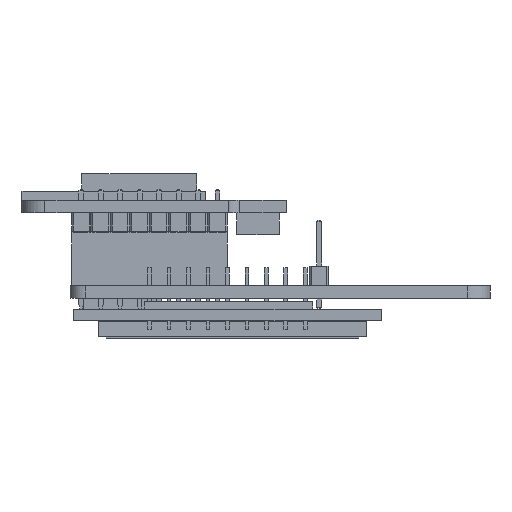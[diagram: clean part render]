
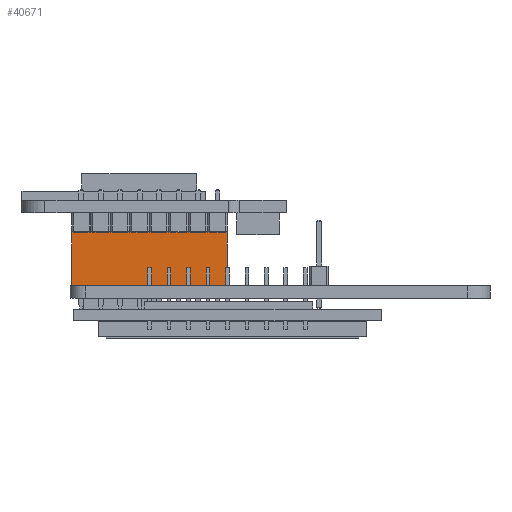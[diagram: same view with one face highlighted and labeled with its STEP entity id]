
A CAD part, left-side view. The second image highlights one B-rep face of the part: STEP entity #40671.
In plain terms, the highlighted free-form (B-spline) face has degree [1, 1] with [2, 2] control points.
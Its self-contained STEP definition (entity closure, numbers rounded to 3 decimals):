
#35591 = B_SPLINE_SURFACE_WITH_KNOTS('',1,1,(
    (#35592,#35593)
    ,(#35594,#35595
    )),.UNSPECIFIED.,.F.,.F.,.F.,(2,2),(2,2),(0.,5.08),(-7.,0.),
  .PIECEWISE_BEZIER_KNOTS.);
#35592 = CARTESIAN_POINT('',(-3.81,-19.05,7.));
#35593 = CARTESIAN_POINT('',(-3.81,-19.05,0.));
#35594 = CARTESIAN_POINT('',(1.27,-19.05,7.));
#35595 = CARTESIAN_POINT('',(1.27,-19.05,0.));
#35616 = B_SPLINE_SURFACE_WITH_KNOTS('',1,1,(
    (#35617,#35618)
    ,(#35619,#35620
  )),.UNSPECIFIED.,.F.,.F.,.F.,(2,2),(2,2),(-20.32,0.),(
    0.,5.08),.PIECEWISE_BEZIER_KNOTS.);
#35617 = CARTESIAN_POINT('',(1.27,1.27,7.));
#35618 = CARTESIAN_POINT('',(-3.81,1.27,7.));
#35619 = CARTESIAN_POINT('',(1.27,-19.05,7.));
#35620 = CARTESIAN_POINT('',(-3.81,-19.05,7.));
#35641 = B_SPLINE_SURFACE_WITH_KNOTS('',1,1,(
    (#35642,#35643)
    ,(#35644,#35645
    )),.UNSPECIFIED.,.F.,.F.,.F.,(2,2),(2,2),(0.,5.08),(-7.,0.),
  .PIECEWISE_BEZIER_KNOTS.);
#35642 = CARTESIAN_POINT('',(1.27,1.27,7.));
#35643 = CARTESIAN_POINT('',(1.27,1.27,0.));
#35644 = CARTESIAN_POINT('',(-3.81,1.27,7.));
#35645 = CARTESIAN_POINT('',(-3.81,1.27,0.));
#35679 = VERTEX_POINT('',#35680);
#35680 = CARTESIAN_POINT('',(-3.81,-19.05,0.));
#35694 = B_SPLINE_SURFACE_WITH_KNOTS('',1,1,(
    (#35695,#35696)
    ,(#35697,#35698
    )),.UNSPECIFIED.,.F.,.F.,.F.,(2,2),(2,2),(-20.32,0.
    ),(4.233,5.08),.PIECEWISE_BEZIER_KNOTS.);
#35695 = CARTESIAN_POINT('',(-2.963,1.27,0.));
#35696 = CARTESIAN_POINT('',(-3.81,1.27,0.));
#35697 = CARTESIAN_POINT('',(-2.963,-19.05,0.));
#35698 = CARTESIAN_POINT('',(-3.81,-19.05,0.));
#35705 = EDGE_CURVE('',#35679,#35706,#35708,.T.);
#35706 = VERTEX_POINT('',#35707);
#35707 = CARTESIAN_POINT('',(-3.81,-19.05,7.));
#35708 = SURFACE_CURVE('',#35709,(#35712,#35718),.PCURVE_S1.);
#35709 = B_SPLINE_CURVE_WITH_KNOTS('',1,(#35710,#35711),.UNSPECIFIED.,
  .F.,.F.,(2,2),(0.,7.),.PIECEWISE_BEZIER_KNOTS.);
#35710 = CARTESIAN_POINT('',(-3.81,-19.05,0.));
#35711 = CARTESIAN_POINT('',(-3.81,-19.05,7.));
#35712 = PCURVE('',#35591,#35713);
#35713 = DEFINITIONAL_REPRESENTATION('',(#35714),#35717);
#35714 = B_SPLINE_CURVE_WITH_KNOTS('',1,(#35715,#35716),.UNSPECIFIED.,
  .F.,.F.,(2,2),(0.,7.),.PIECEWISE_BEZIER_KNOTS.);
#35715 = CARTESIAN_POINT('',(0.,0.));
#35716 = CARTESIAN_POINT('',(0.,-7.));
#35717 = ( GEOMETRIC_REPRESENTATION_CONTEXT(2) 
PARAMETRIC_REPRESENTATION_CONTEXT() REPRESENTATION_CONTEXT('2D SPACE',''
  ) );
#35718 = PCURVE('',#35719,#35724);
#35719 = B_SPLINE_SURFACE_WITH_KNOTS('',1,1,(
    (#35720,#35721)
    ,(#35722,#35723
    )),.UNSPECIFIED.,.F.,.F.,.F.,(2,2),(2,2),(0.,20.32),(-7.,0.),
  .PIECEWISE_BEZIER_KNOTS.);
#35720 = CARTESIAN_POINT('',(-3.81,1.27,7.));
#35721 = CARTESIAN_POINT('',(-3.81,1.27,0.));
#35722 = CARTESIAN_POINT('',(-3.81,-19.05,7.));
#35723 = CARTESIAN_POINT('',(-3.81,-19.05,0.));
#35724 = DEFINITIONAL_REPRESENTATION('',(#35725),#35728);
#35725 = B_SPLINE_CURVE_WITH_KNOTS('',1,(#35726,#35727),.UNSPECIFIED.,
  .F.,.F.,(2,2),(0.,7.),.PIECEWISE_BEZIER_KNOTS.);
#35726 = CARTESIAN_POINT('',(20.32,-0.));
#35727 = CARTESIAN_POINT('',(20.32,-7.));
#35728 = ( GEOMETRIC_REPRESENTATION_CONTEXT(2) 
PARAMETRIC_REPRESENTATION_CONTEXT() REPRESENTATION_CONTEXT('2D SPACE',''
  ) );
#35867 = VERTEX_POINT('',#35868);
#35868 = CARTESIAN_POINT('',(-3.81,1.27,7.));
#35886 = EDGE_CURVE('',#35887,#35867,#35889,.T.);
#35887 = VERTEX_POINT('',#35888);
#35888 = CARTESIAN_POINT('',(-3.81,1.27,0.));
#35889 = SURFACE_CURVE('',#35890,(#35893,#35899),.PCURVE_S1.);
#35890 = B_SPLINE_CURVE_WITH_KNOTS('',1,(#35891,#35892),.UNSPECIFIED.,
  .F.,.F.,(2,2),(0.,7.),.PIECEWISE_BEZIER_KNOTS.);
#35891 = CARTESIAN_POINT('',(-3.81,1.27,0.));
#35892 = CARTESIAN_POINT('',(-3.81,1.27,7.));
#35893 = PCURVE('',#35641,#35894);
#35894 = DEFINITIONAL_REPRESENTATION('',(#35895),#35898);
#35895 = B_SPLINE_CURVE_WITH_KNOTS('',1,(#35896,#35897),.UNSPECIFIED.,
  .F.,.F.,(2,2),(0.,7.),.PIECEWISE_BEZIER_KNOTS.);
#35896 = CARTESIAN_POINT('',(5.08,-0.));
#35897 = CARTESIAN_POINT('',(5.08,-7.));
#35898 = ( GEOMETRIC_REPRESENTATION_CONTEXT(2) 
PARAMETRIC_REPRESENTATION_CONTEXT() REPRESENTATION_CONTEXT('2D SPACE',''
  ) );
#35899 = PCURVE('',#35719,#35900);
#35900 = DEFINITIONAL_REPRESENTATION('',(#35901),#35904);
#35901 = B_SPLINE_CURVE_WITH_KNOTS('',1,(#35902,#35903),.UNSPECIFIED.,
  .F.,.F.,(2,2),(0.,7.),.PIECEWISE_BEZIER_KNOTS.);
#35902 = CARTESIAN_POINT('',(0.,0.));
#35903 = CARTESIAN_POINT('',(0.,-7.));
#35904 = ( GEOMETRIC_REPRESENTATION_CONTEXT(2) 
PARAMETRIC_REPRESENTATION_CONTEXT() REPRESENTATION_CONTEXT('2D SPACE',''
  ) );
#36013 = EDGE_CURVE('',#35867,#35706,#36014,.T.);
#36014 = SURFACE_CURVE('',#36015,(#36018,#36024),.PCURVE_S1.);
#36015 = B_SPLINE_CURVE_WITH_KNOTS('',1,(#36016,#36017),.UNSPECIFIED.,
  .F.,.F.,(2,2),(0.,20.32),.PIECEWISE_BEZIER_KNOTS.);
#36016 = CARTESIAN_POINT('',(-3.81,1.27,7.));
#36017 = CARTESIAN_POINT('',(-3.81,-19.05,7.));
#36018 = PCURVE('',#35616,#36019);
#36019 = DEFINITIONAL_REPRESENTATION('',(#36020),#36023);
#36020 = B_SPLINE_CURVE_WITH_KNOTS('',1,(#36021,#36022),.UNSPECIFIED.,
  .F.,.F.,(2,2),(0.,20.32),.PIECEWISE_BEZIER_KNOTS.);
#36021 = CARTESIAN_POINT('',(-20.32,5.08));
#36022 = CARTESIAN_POINT('',(0.,5.08));
#36023 = ( GEOMETRIC_REPRESENTATION_CONTEXT(2) 
PARAMETRIC_REPRESENTATION_CONTEXT() REPRESENTATION_CONTEXT('2D SPACE',''
  ) );
#36024 = PCURVE('',#35719,#36025);
#36025 = DEFINITIONAL_REPRESENTATION('',(#36026),#36029);
#36026 = B_SPLINE_CURVE_WITH_KNOTS('',1,(#36027,#36028),.UNSPECIFIED.,
  .F.,.F.,(2,2),(0.,20.32),.PIECEWISE_BEZIER_KNOTS.);
#36027 = CARTESIAN_POINT('',(0.,-7.));
#36028 = CARTESIAN_POINT('',(20.32,-7.));
#36029 = ( GEOMETRIC_REPRESENTATION_CONTEXT(2) 
PARAMETRIC_REPRESENTATION_CONTEXT() REPRESENTATION_CONTEXT('2D SPACE',''
  ) );
#37686 = EDGE_CURVE('',#35887,#35679,#37687,.T.);
#37687 = SURFACE_CURVE('',#37688,(#37691,#37697),.PCURVE_S1.);
#37688 = B_SPLINE_CURVE_WITH_KNOTS('',1,(#37689,#37690),.UNSPECIFIED.,
  .F.,.F.,(2,2),(0.,20.32),.PIECEWISE_BEZIER_KNOTS.);
#37689 = CARTESIAN_POINT('',(-3.81,1.27,0.));
#37690 = CARTESIAN_POINT('',(-3.81,-19.05,0.));
#37691 = PCURVE('',#35694,#37692);
#37692 = DEFINITIONAL_REPRESENTATION('',(#37693),#37696);
#37693 = B_SPLINE_CURVE_WITH_KNOTS('',1,(#37694,#37695),.UNSPECIFIED.,
  .F.,.F.,(2,2),(0.,20.32),.PIECEWISE_BEZIER_KNOTS.);
#37694 = CARTESIAN_POINT('',(-20.32,5.08));
#37695 = CARTESIAN_POINT('',(0.,5.08));
#37696 = ( GEOMETRIC_REPRESENTATION_CONTEXT(2) 
PARAMETRIC_REPRESENTATION_CONTEXT() REPRESENTATION_CONTEXT('2D SPACE',''
  ) );
#37697 = PCURVE('',#35719,#37698);
#37698 = DEFINITIONAL_REPRESENTATION('',(#37699),#37702);
#37699 = B_SPLINE_CURVE_WITH_KNOTS('',1,(#37700,#37701),.UNSPECIFIED.,
  .F.,.F.,(2,2),(0.,20.32),.PIECEWISE_BEZIER_KNOTS.);
#37700 = CARTESIAN_POINT('',(0.,0.));
#37701 = CARTESIAN_POINT('',(20.32,-0.));
#37702 = ( GEOMETRIC_REPRESENTATION_CONTEXT(2) 
PARAMETRIC_REPRESENTATION_CONTEXT() REPRESENTATION_CONTEXT('2D SPACE',''
  ) );
#40671 = ADVANCED_FACE('',(#40672),#35719,.F.);
#40672 = FACE_BOUND('',#40673,.F.);
#40673 = EDGE_LOOP('',(#40674,#40675,#40676,#40677));
#40674 = ORIENTED_EDGE('',*,*,#35886,.T.);
#40675 = ORIENTED_EDGE('',*,*,#36013,.T.);
#40676 = ORIENTED_EDGE('',*,*,#35705,.F.);
#40677 = ORIENTED_EDGE('',*,*,#37686,.F.);
